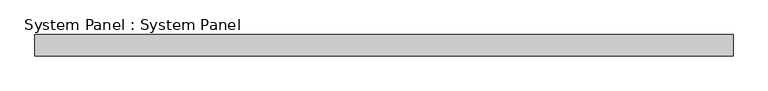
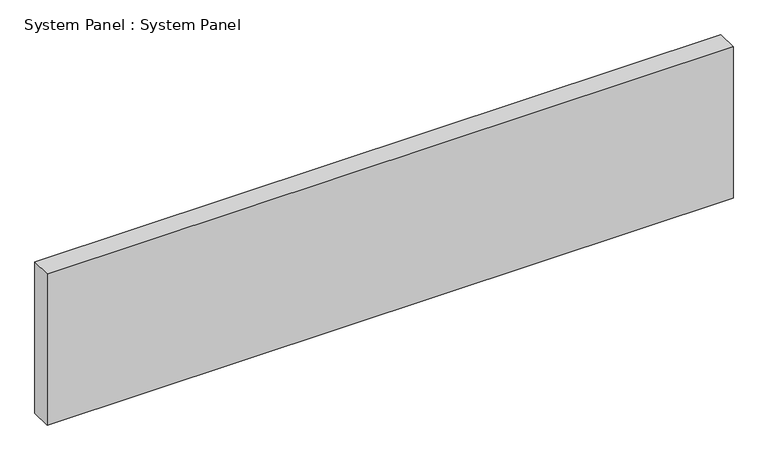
"""IFC4 building model written with IfcOpenShell, lengths in millimetres: plate geometry, System Panel : System Panel."""

from ifc_helpers import new_model, si_unit, origin, origin_with_axes, place, context, project, spatial, polyline, outline, extrude, source, transform, mapped, element, save


def system_panel_system_panel_565ce332(model_context):
    return source(origin(), model_context, "Body", "SweptSolid", [
        extrude(outline(polyline([(1659.872753, -50.8), (-1659.872753, -50.8), (-1659.872753, 50.8), (1659.872753, 50.8), (1659.872753, -50.8)])), origin_with_axes(), (0.0, 0.0, 1.0), 774.7),
    ])


if __name__ == "__main__":
    model = new_model("IFC4")
    model_context = context("Model", 3, world=origin())
    ifc_project = project(units=[si_unit("LENGTHUNIT", "METRE", prefix="MILLI")], contexts=[model_context])
    site = spatial("IfcSite", under=ifc_project)
    building = spatial("IfcBuilding", under=site)
    placement = place(None, origin())
    system_panel_system_panel_shape = system_panel_system_panel_565ce332(model_context)
    element("IfcPlate", 1, ObjectType="System Panel : System Panel", at=placement, inside=building, context=model_context, shape_type="MappedRepresentation", body=[
        mapped(system_panel_system_panel_shape, transform((0.0, 0.0, 0.0), x_axis=(1.0, 0.0, 0.0), y_axis=(0.0, 1.0, 0.0), z_axis=(0.0, 0.0, 1.0))),
    ])
    save(model, "model.ifc")
